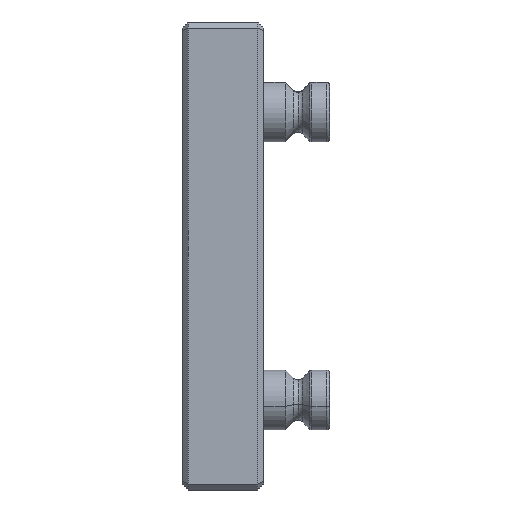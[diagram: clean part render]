
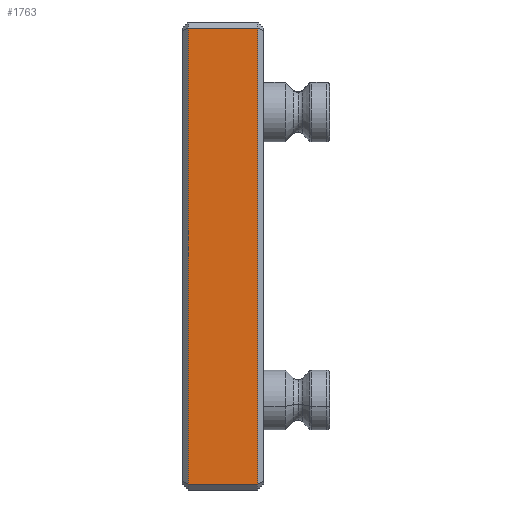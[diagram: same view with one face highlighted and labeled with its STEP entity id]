
A CAD part, left-side view. The second image highlights one B-rep face of the part: STEP entity #1763.
In plain terms, the highlighted planar face has unit normal (-1, 0, 0).
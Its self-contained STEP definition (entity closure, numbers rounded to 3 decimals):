
#47 = EDGE_LOOP ( 'NONE', ( #3354, #3387, #3438, #3364 ) ) ;
#203 = VERTEX_POINT ( 'NONE', #4031 ) ;
#251 = VERTEX_POINT ( 'NONE', #4070 ) ;
#272 = VERTEX_POINT ( 'NONE', #4091 ) ;
#286 = VERTEX_POINT ( 'NONE', #839 ) ;
#654 = CARTESIAN_POINT ( 'NONE',  ( -78., 27., 76. ) ) ;
#659 = LINE ( 'NONE', #654, #4103 ) ;
#686 = DIRECTION ( 'NONE',  ( 0., 1., 0. ) ) ;
#839 = CARTESIAN_POINT ( 'NONE',  ( -78., 25., -76. ) ) ;
#1016 = LINE ( 'NONE', #1020, #1811 ) ;
#1020 = CARTESIAN_POINT ( 'NONE',  ( -78., 25., 78. ) ) ;
#1021 = DIRECTION ( 'NONE',  ( 0., 0., -1. ) ) ;
#1022 = LINE ( 'NONE', #1023, #1810 ) ;
#1023 = CARTESIAN_POINT ( 'NONE',  ( -78., 27., -76. ) ) ;
#1024 = DIRECTION ( 'NONE',  ( 0., -1., 0. ) ) ;
#1025 = LINE ( 'NONE', #1026, #1812 ) ;
#1026 = CARTESIAN_POINT ( 'NONE',  ( -78., 2., 76. ) ) ;
#1027 = DIRECTION ( 'NONE',  ( 0., 0., 1. ) ) ;
#1586 = EDGE_CURVE ( 'NONE', #203, #272, #659, .T. ) ;
#1715 = EDGE_CURVE ( 'NONE', #272, #286, #1016, .T. ) ;
#1716 = EDGE_CURVE ( 'NONE', #286, #251, #1022, .T. ) ;
#1717 = EDGE_CURVE ( 'NONE', #251, #203, #1025, .T. ) ;
#1763 = ADVANCED_FACE ( 'NONE', ( #3642 ), #3643, .F. ) ;
#1810 = VECTOR ( 'NONE', #1024, 1000. ) ;
#1811 = VECTOR ( 'NONE', #1021, 1000. ) ;
#1812 = VECTOR ( 'NONE', #1027, 1000. ) ;
#3354 = ORIENTED_EDGE ( 'NONE', *, *, #1586, .T. ) ;
#3364 = ORIENTED_EDGE ( 'NONE', *, *, #1717, .T. ) ;
#3387 = ORIENTED_EDGE ( 'NONE', *, *, #1715, .T. ) ;
#3438 = ORIENTED_EDGE ( 'NONE', *, *, #1716, .T. ) ;
#3634 = CARTESIAN_POINT ( 'NONE',  ( -78., 27., 78. ) ) ;
#3642 = FACE_OUTER_BOUND ( 'NONE', #47, .T. ) ;
#3643 = PLANE ( 'NONE',  #3859 ) ;
#3645 = DIRECTION ( 'NONE',  ( 1., 0., 0. ) ) ;
#3646 = DIRECTION ( 'NONE',  ( 0., -1., 0. ) ) ;
#3859 = AXIS2_PLACEMENT_3D ( 'NONE', #3634, #3645, #3646 ) ;
#4031 = CARTESIAN_POINT ( 'NONE',  ( -78., 2., 76. ) ) ;
#4070 = CARTESIAN_POINT ( 'NONE',  ( -78., 2., -76. ) ) ;
#4091 = CARTESIAN_POINT ( 'NONE',  ( -78., 25., 76. ) ) ;
#4103 = VECTOR ( 'NONE', #686, 1000. ) ;
